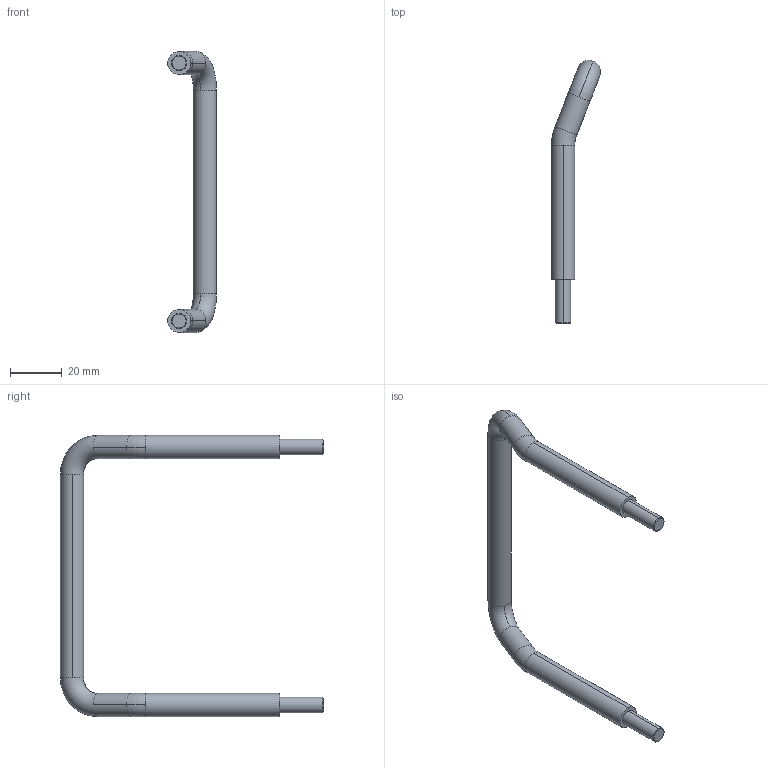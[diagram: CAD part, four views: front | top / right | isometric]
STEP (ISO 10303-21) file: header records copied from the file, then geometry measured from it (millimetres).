
FILE_DESCRIPTION (( 'STEP AP214' ), '1' );
FILE_NAME ('A86 KA-1233.STEP', '2012-02-22T02:09:28', ( '' ), ( '' ), 'SwSTEP 2.0', 'SolidWorks 2012', '' );
FILE_SCHEMA (( 'AUTOMOTIVE_DESIGN' ));
Length unit declared in the file: millimetre
Products named in the file (1): A86 KA-1233
Bounding box: 19 x 102 x 109 mm (x, y, z)
Volume: 17221.8 mm3; surface area: 7988.9 mm2
Topology: 1 solids, 1 shells, 30 faces, 70 edges, 44 vertices
Faces by surface type: cylinder 14, torus 8, cone 4, plane 4
Entity records: 916 total; most frequent: DIRECTION 184, CARTESIAN_POINT 145, ORIENTED_EDGE 140, AXIS2_PLACEMENT_3D 83, EDGE_CURVE 70, CIRCLE 52, VERTEX_POINT 44, EDGE_LOOP 32
